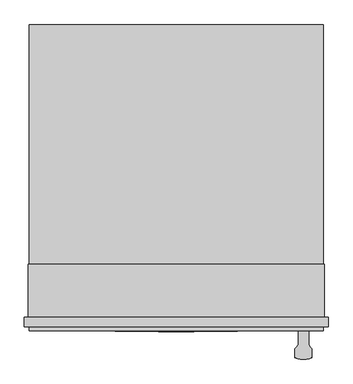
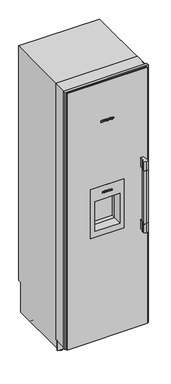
"""IFC4 building model written with IfcOpenShell, lengths in millimetres: proxy geometry, 11503570_USA_F2672SF : 37267211_USA_11503570_F2672SF."""

from ifc_helpers import new_model, si_unit, point, frame, frame_2d, origin, place, context, project, spatial, polyline, circle_curve, ellipse_curve, trimmed, segment, composite_curve, outline, extrude, faceted_brep, source, transform, mapped, element, save
from ifc_brep_helpers import plane_surface, cylinder_surface, revolved_surface, extruded_surface, advanced_brep


def specialty_equipment_fe4ad40c(model_context):
    return source(origin(), model_context, "Body", "SolidModel", [
        extrude(outline(polyline([(-6.5, 75.0), (6.5, 75.0), (6.5, 21.0), (-6.5, 21.0), (-6.5, 75.0)])), frame((0.0, 0.0, 99.0), z_axis=(0.0, 0.0, 1.0), x_axis=(1.0, 0.0, 0.0)), (0.0, 0.0, 1.0), 67.0),
        extrude(outline(polyline([(1295.0, 125.0), (1295.0, -125.0), (908.0, -125.0), (908.0, 125.0), (1295.0, 125.0)]), holes=[polyline([(1190.0, 94.0), (956.0, 94.0), (956.0, -94.0), (1190.0, -94.0), (1190.0, 94.0)])]), frame((0.0, -1.3, 0.0), z_axis=(0.0, 1.0, 0.0), x_axis=(0.0, 0.0, 1.0)), (0.0, 0.0, 1.0), 69.3),
        extrude(outline(polyline([(2036.0, 291.0), (2036.0, -291.0), (265.0, -291.0), (265.0, 291.0), (2036.0, 291.0)]), holes=[polyline([(1295.0, 125.0), (908.0, 125.0), (908.0, -125.0), (1295.0, -125.0), (1295.0, 125.0)])]), frame((0.0, 21.0, 0.0), z_axis=(0.0, 1.0, 0.0), x_axis=(0.0, 0.0, 1.0)), (0.0, 0.0, 1.0), 47.0),
        faceted_brep([(-158.0, 68.0, 863.0), (-158.0, 68.0, 1335.0), (-158.0, 260.0, 1335.0), (-158.0, 260.0, 987.0), (-158.0, 161.0, 863.0), (158.0, 68.0, 863.0), (158.0, 161.0, 863.0), (158.0, 260.0, 987.0), (158.0, 260.0, 1335.0), (158.0, 68.0, 1335.0), (94.0, 68.0, 1190.0), (94.0, 68.0, 956.0), (-94.0, 68.0, 956.0), (-94.0, 68.0, 1190.0), (94.0, 100.0, 1190.0), (-94.0, 100.0, 1190.0), (-94.0, 100.0, 956.0), (94.0, 100.0, 956.0)], [[[0, 1, 2, 3, 4]], [[5, 6, 7, 8, 9]], [[0, 4, 6, 5]], [[4, 3, 7, 6]], [[3, 2, 8, 7]], [[2, 1, 9, 8]], [[1, 0, 5, 9], [10, 11, 12, 13]], [[14, 15, 16, 17]], [[14, 17, 11, 10]], [[17, 16, 12, 11]], [[16, 15, 13, 12]], [[15, 14, 10, 13]]]),
        extrude(outline(polyline([(2113.0, 301.5), (2113.0, -301.5), (90.0, -301.5), (90.0, 301.5), (2113.0, 301.5)]), holes=[polyline([(1295.0, 125.0), (908.0, 125.0), (908.0, -125.0), (1295.0, -125.0), (1295.0, 125.0)])]), frame((0.0, 0.0, 0.0), z_axis=(0.0, 1.0, 0.0), x_axis=(0.0, 0.0, 1.0)), (0.0, 0.0, 1.0), 21.0),
        extrude(outline(polyline([(-137.5, 50.0), (137.5, 50.0), (137.5, 21.0), (-137.5, 21.0), (-137.5, 50.0)])), frame((0.0, 0.0, 2036.0), z_axis=(0.0, 0.0, 1.0), x_axis=(1.0, 0.0, 0.0)), (0.0, 0.0, 1.0), 56.0),
        extrude(outline(composite_curve([segment(trimmed(circle_curve(frame_2d((234.4285714, -24.4390599)), 15.5714286), [point((243.0, -37.4390599))], [point((250.0, -24.4390599))], True, "CARTESIAN"), True, "CONTINUOUS"), segment(polyline([(250.0, -24.4390599), (250.0, 0.0), (271.0, 0.0), (271.0, -24.4390599)]), True, "CONTINUOUS"), segment(trimmed(circle_curve(frame_2d((286.5714286, -24.4390599)), 15.5714286), [point((271.0, -24.4390599))], [point((278.0, -37.4390599))], True, "CARTESIAN"), True, "CONTINUOUS"), segment(polyline([(278.0, -37.4390599), (278.0, -55.0)]), True, "CONTINUOUS"), segment(trimmed(circle_curve(frame_2d((260.5, -18.71875)), 40.28125), [point((278.0, -55.0))], [point((260.5, -59.0))], False, "CARTESIAN"), True, "CONTINUOUS"), segment(trimmed(circle_curve(frame_2d((260.5, -18.71875)), 40.28125), [point((260.5, -59.0))], [point((243.0, -55.0))], False, "CARTESIAN"), True, "CONTINUOUS"), segment(polyline([(243.0, -55.0), (243.0, -37.4390599)]), True, "CONTINUOUS")], self_intersect=False)), frame((0.0, 0.0, 858.0), z_axis=(0.0, 0.0, 1.0), x_axis=(1.0, 0.0, 0.0)), (0.0, 0.0, 1.0), 70.0),
        extrude(outline(composite_curve([segment(trimmed(circle_curve(frame_2d((234.4285714, -24.4390599)), 15.5714286), [point((243.0, -37.4390599))], [point((250.0, -24.4390599))], True, "CARTESIAN"), True, "CONTINUOUS"), segment(polyline([(250.0, -24.4390599), (250.0, 0.0), (271.0, 0.0), (271.0, -24.4390599)]), True, "CONTINUOUS"), segment(trimmed(circle_curve(frame_2d((286.5714286, -24.4390599)), 15.5714286), [point((271.0, -24.4390599))], [point((278.0, -37.4390599))], True, "CARTESIAN"), True, "CONTINUOUS"), segment(polyline([(278.0, -37.4390599), (278.0, -55.0)]), True, "CONTINUOUS"), segment(trimmed(circle_curve(frame_2d((260.5, -18.71875)), 40.28125), [point((278.0, -55.0))], [point((260.5, -59.0))], False, "CARTESIAN"), True, "CONTINUOUS"), segment(trimmed(circle_curve(frame_2d((260.5, -18.71875)), 40.28125), [point((260.5, -59.0))], [point((243.0, -55.0))], False, "CARTESIAN"), True, "CONTINUOUS"), segment(polyline([(243.0, -55.0), (243.0, -37.4390599)]), True, "CONTINUOUS")], self_intersect=False)), frame((0.0, 0.0, 1348.0), z_axis=(0.0, 0.0, 1.0), x_axis=(1.0, 0.0, 0.0)), (0.0, 0.0, 1.0), 70.0),
        extrude(outline(composite_curve([segment(trimmed(circle_curve(frame_2d((234.4285714, -24.4390599)), 15.5714286), [point((243.0, -37.4390599))], [point((244.8599688, -36.0))], True, "CARTESIAN"), True, "CONTINUOUS"), segment(polyline([(244.8599688, -36.0), (276.1400312, -36.0)]), True, "CONTINUOUS"), segment(trimmed(circle_curve(frame_2d((286.5714286, -24.4390599)), 15.5714286), [point((276.1400312, -36.0))], [point((278.0, -37.4390599))], True, "CARTESIAN"), True, "CONTINUOUS"), segment(polyline([(278.0, -37.4390599), (278.0, -55.0)]), True, "CONTINUOUS"), segment(trimmed(circle_curve(frame_2d((260.5, -18.71875)), 40.28125), [point((278.0, -55.0))], [point((260.5, -59.0))], False, "CARTESIAN"), True, "CONTINUOUS"), segment(trimmed(circle_curve(frame_2d((260.5, -18.71875)), 40.28125), [point((260.5, -59.0))], [point((243.0, -55.0))], False, "CARTESIAN"), True, "CONTINUOUS"), segment(polyline([(243.0, -55.0), (243.0, -37.4390599)]), True, "CONTINUOUS")], self_intersect=False)), frame((0.0, 0.0, 928.0), z_axis=(0.0, 0.0, 1.0), x_axis=(1.0, 0.0, 0.0)), (0.0, 0.0, 1.0), 420.0),
        advanced_brep(
        [(28.472, -2.3, 1241.344), (28.472, -2.3, 1242.556), (36.5, -2.3, 1242.556), (22.532, -2.3, 1242.556), (25.832, -2.3, 1238.5), (36.296, -2.3, 1241.344), (32.672, -2.3, 1241.344), (29.816, -2.3, 1240.0), (28.472, -2.3, 1244.092), (28.472, -2.3, 1245.4), (30.524, -2.3, 1245.4), (30.524, -2.3, 1244.092), (28.472, -1.3, 1241.344), (29.816, -1.3, 1240.0), (32.672, -1.3, 1241.344), (36.296, -1.3, 1241.344), (25.832, -1.3, 1238.5), (22.532, -1.3, 1242.556), (36.5, -1.3, 1242.556), (28.472, -1.3, 1242.556), (28.472, -1.3, 1244.092), (30.524, -1.3, 1244.092), (30.524, -1.3, 1245.4), (28.472, -1.3, 1245.4)],
        [
            (0, 1),
            (1, 2),
            (2, 3, ellipse_curve(frame((29.516, -2.3, 1242.556), z_axis=(0.0, -1.0, 0.0), x_axis=(-1.0, 0.0, 0.0)), 6.984, 5.772)),
            (3, 4, circle_curve(frame((27.1760655, -2.3, 1242.964), z_axis=(0.0, -1.0, 0.0), x_axis=(0.0, 0.0, -1.0)), 4.6619532)),
            (4, 5, circle_curve(frame((29.3761904, -2.3, 1246.132), z_axis=(0.0, -1.0, 0.0), x_axis=(0.0, 0.0, -1.0)), 8.4147911)),
            (5, 6),
            (6, 7, circle_curve(frame((30.4025882, -2.3, 1242.46), z_axis=(0.0, 1.0, 0.0), x_axis=(0.0, 0.0, -1.0)), 2.5289693)),
            (7, 0, circle_curve(frame((29.816, -2.3, 1241.344), z_axis=(0.0, 1.0, 0.0), x_axis=(0.0, 0.0, -1.0)), 1.344)),
            (8, 9),
            (9, 10, circle_curve(frame((29.498, -2.3, 1245.4), z_axis=(0.0, 1.0, 0.0), x_axis=(0.0, 0.0, -1.0)), 1.026)),
            (10, 11),
            (11, 8),
            (12, 13, circle_curve(frame((29.816, -1.3, 1241.344), z_axis=(0.0, -1.0, 0.0), x_axis=(0.0, 0.0, -1.0)), 1.344)),
            (13, 14, circle_curve(frame((30.4025882, -1.3, 1242.46), z_axis=(0.0, -1.0, 0.0), x_axis=(0.0, 0.0, -1.0)), 2.5289693)),
            (14, 15),
            (15, 16, circle_curve(frame((29.3761904, -1.3, 1246.132), z_axis=(0.0, 1.0, 0.0), x_axis=(0.0, 0.0, -1.0)), 8.4147911)),
            (16, 17, circle_curve(frame((27.1760655, -1.3, 1242.964), z_axis=(0.0, 1.0, 0.0), x_axis=(0.0, 0.0, -1.0)), 4.6619532)),
            (17, 18, ellipse_curve(frame((29.516, -1.3, 1242.556), z_axis=(0.0, 1.0, 0.0), x_axis=(-1.0, 0.0, 0.0)), 6.984, 5.772)),
            (18, 19),
            (19, 12),
            (20, 21),
            (21, 22),
            (22, 23, circle_curve(frame((29.498, -1.3, 1245.4), z_axis=(0.0, -1.0, 0.0), x_axis=(0.0, 0.0, -1.0)), 1.026)),
            (23, 20),
            (0, 12),
            (19, 1),
            (18, 2),
            (5, 15),
            (14, 6),
            (17, 3),
            (13, 7),
            (16, 4),
            (8, 20),
            (23, 9),
            (22, 10),
            (21, 11),
        ],
        [
            plane_surface(frame((28.472, -2.3, 1242.556), z_axis=(0.0, -1.0, 0.0), x_axis=(0.0, 0.0, 1.0))),
            plane_surface(frame((28.472, -1.3, 1242.556), z_axis=(0.0, 1.0, 0.0), x_axis=(0.0, 0.0, -1.0))),
            plane_surface(frame((28.472, -2.3, 1241.344), z_axis=(1.0, 0.0, 0.0), x_axis=(0.0, 1.0, 0.0))),
            plane_surface(frame((28.472, -2.3, 1242.556), z_axis=(0.0, 0.0, -1.0), x_axis=(0.0, 1.0, 0.0))),
            plane_surface(frame((36.296, -2.3, 1241.344), z_axis=(0.0, 0.0, 1.0), x_axis=(0.0, 1.0, 0.0))),
            extruded_surface(trimmed(ellipse_curve(frame((29.516, -0.3, 1242.556), z_axis=(0.0, -1.0, 0.0), x_axis=(-1.0, 0.0, 0.0)), 6.984, 5.772), [point((36.5, -0.3, 1242.556))], [point((22.532, -0.3, 1242.556))], True, "CARTESIAN"), (0.0, -1.0, 0.0), 1.0),
            revolved_surface(polyline([(30.4025882, -1.3, 1239.9310307), (30.4025882, -2.3, 1239.9310307)]), (30.4025882, -1.3, 1242.46), (0.0, 1.0, 0.0)),
            revolved_surface(polyline([(29.816, -1.3, 1240.0), (29.816, -2.3, 1240.0)]), (29.816, -1.3, 1241.344), (0.0, 1.0, 0.0)),
            cylinder_surface(frame((27.1760655, -1.3, 1242.964), z_axis=(0.0, -1.0, 0.0), x_axis=(0.0, 0.0, -1.0)), 4.6619532),
            cylinder_surface(frame((29.3761904, -1.3, 1246.132), z_axis=(0.0, -1.0, 0.0), x_axis=(0.0, 0.0, -1.0)), 8.4147911),
            plane_surface(frame((28.472, -2.3, 1244.092), z_axis=(1.0, 0.0, 0.0), x_axis=(0.0, 1.0, 0.0))),
            revolved_surface(polyline([(29.498, -1.3, 1244.374), (29.498, -2.3, 1244.374)]), (29.498, -1.3, 1245.4), (0.0, 1.0, 0.0)),
            plane_surface(frame((30.524, -2.3, 1245.4), z_axis=(-1.0, 0.0, 0.0), x_axis=(0.0, 1.0, 0.0))),
            plane_surface(frame((30.524, -2.3, 1244.092), z_axis=(0.0, 0.0, 1.0), x_axis=(0.0, 1.0, 0.0))),
        ],
        [
            (0, [[1, 2, 3, 4, 5, 6, 7, 8], [9, 10, 11, 12]]),
            (1, [[13, 14, 15, 16, 17, 18, 19, 20], [21, 22, 23, 24]]),
            (2, [[-1, 25, -20, 26]]),
            (3, [[-2, -26, -19, 27]]),
            (4, [[-6, 28, -15, 29]]),
            (5, [[-3, -27, -18, 30]]),
            (6, [[-7, -29, -14, 31]]),
            (7, [[-8, -31, -13, -25]]),
            (8, [[-4, -30, -17, 32]]),
            (9, [[-5, -32, -16, -28]]),
            (10, [[-9, 33, -24, 34]]),
            (11, [[-10, -34, -23, 35]]),
            (12, [[-11, -35, -22, 36]]),
            (13, [[-12, -36, -21, -33]]),
        ],
    ),
        advanced_brep(
        [(3.428, -2.3, 1241.344), (3.428, -2.3, 1242.556), (11.456, -2.3, 1242.556), (-2.512, -2.3, 1242.556), (0.788, -2.3, 1238.5), (11.252, -2.3, 1241.344), (7.628, -2.3, 1241.344), (4.772, -2.3, 1240.0), (3.428, -2.3, 1244.092), (3.428, -2.3, 1245.4), (5.48, -2.3, 1245.4), (5.48, -2.3, 1244.092), (3.428, -1.3, 1241.344), (4.772, -1.3, 1240.0), (7.628, -1.3, 1241.344), (11.252, -1.3, 1241.344), (0.788, -1.3, 1238.5), (-2.512, -1.3, 1242.556), (11.456, -1.3, 1242.556), (3.428, -1.3, 1242.556), (3.428, -1.3, 1244.092), (5.48, -1.3, 1244.092), (5.48, -1.3, 1245.4), (3.428, -1.3, 1245.4)],
        [
            (0, 1),
            (1, 2),
            (2, 3, ellipse_curve(frame((4.472, -2.3, 1242.556), z_axis=(0.0, -1.0, 0.0), x_axis=(-1.0, 0.0, 0.0)), 6.984, 5.772)),
            (3, 4, circle_curve(frame((2.1320655, -2.3, 1242.964), z_axis=(0.0, -1.0, 0.0), x_axis=(0.0, 0.0, -1.0)), 4.6619532)),
            (4, 5, circle_curve(frame((4.3321904, -2.3, 1246.132), z_axis=(0.0, -1.0, 0.0), x_axis=(0.0, 0.0, -1.0)), 8.4147911)),
            (5, 6),
            (6, 7, circle_curve(frame((5.3585882, -2.3, 1242.46), z_axis=(0.0, 1.0, 0.0), x_axis=(0.0, 0.0, -1.0)), 2.5289693)),
            (7, 0, circle_curve(frame((4.772, -2.3, 1241.344), z_axis=(0.0, 1.0, 0.0), x_axis=(0.0, 0.0, -1.0)), 1.344)),
            (8, 9),
            (9, 10, circle_curve(frame((4.454, -2.3, 1245.4), z_axis=(0.0, 1.0, 0.0), x_axis=(0.0, 0.0, -1.0)), 1.026)),
            (10, 11),
            (11, 8),
            (12, 13, circle_curve(frame((4.772, -1.3, 1241.344), z_axis=(0.0, -1.0, 0.0), x_axis=(0.0, 0.0, -1.0)), 1.344)),
            (13, 14, circle_curve(frame((5.3585882, -1.3, 1242.46), z_axis=(0.0, -1.0, 0.0), x_axis=(0.0, 0.0, -1.0)), 2.5289693)),
            (14, 15),
            (15, 16, circle_curve(frame((4.3321904, -1.3, 1246.132), z_axis=(0.0, 1.0, 0.0), x_axis=(0.0, 0.0, -1.0)), 8.4147911)),
            (16, 17, circle_curve(frame((2.1320655, -1.3, 1242.964), z_axis=(0.0, 1.0, 0.0), x_axis=(0.0, 0.0, -1.0)), 4.6619532)),
            (17, 18, ellipse_curve(frame((4.472, -1.3, 1242.556), z_axis=(0.0, 1.0, 0.0), x_axis=(-1.0, 0.0, 0.0)), 6.984, 5.772)),
            (18, 19),
            (19, 12),
            (20, 21),
            (21, 22),
            (22, 23, circle_curve(frame((4.454, -1.3, 1245.4), z_axis=(0.0, -1.0, 0.0), x_axis=(0.0, 0.0, -1.0)), 1.026)),
            (23, 20),
            (0, 12),
            (19, 1),
            (18, 2),
            (5, 15),
            (14, 6),
            (17, 3),
            (13, 7),
            (16, 4),
            (8, 20),
            (23, 9),
            (22, 10),
            (21, 11),
        ],
        [
            plane_surface(frame((3.428, -2.3, 1242.556), z_axis=(0.0, -1.0, 0.0), x_axis=(0.0, 0.0, 1.0))),
            plane_surface(frame((3.428, -1.3, 1242.556), z_axis=(0.0, 1.0, 0.0), x_axis=(0.0, 0.0, -1.0))),
            plane_surface(frame((3.428, -2.3, 1241.344), z_axis=(1.0, 0.0, 0.0), x_axis=(0.0, 1.0, 0.0))),
            plane_surface(frame((3.428, -2.3, 1242.556), z_axis=(0.0, 0.0, -1.0), x_axis=(0.0, 1.0, 0.0))),
            plane_surface(frame((11.252, -2.3, 1241.344), z_axis=(0.0, 0.0, 1.0), x_axis=(0.0, 1.0, 0.0))),
            extruded_surface(trimmed(ellipse_curve(frame((4.472, -0.3, 1242.556), z_axis=(0.0, -1.0, 0.0), x_axis=(-1.0, 0.0, 0.0)), 6.984, 5.772), [point((11.456, -0.3, 1242.556))], [point((-2.512, -0.3, 1242.556))], True, "CARTESIAN"), (0.0, -1.0, 0.0), 1.0),
            revolved_surface(polyline([(5.3585882, -1.3, 1239.9310307), (5.3585882, -2.3, 1239.9310307)]), (5.3585882, -1.3, 1242.46), (0.0, 1.0, 0.0)),
            revolved_surface(polyline([(4.772, -1.3, 1240.0), (4.772, -2.3, 1240.0)]), (4.772, -1.3, 1241.344), (0.0, 1.0, 0.0)),
            cylinder_surface(frame((2.1320655, -1.3, 1242.964), z_axis=(0.0, -1.0, 0.0), x_axis=(0.0, 0.0, -1.0)), 4.6619532),
            cylinder_surface(frame((4.3321904, -1.3, 1246.132), z_axis=(0.0, -1.0, 0.0), x_axis=(0.0, 0.0, -1.0)), 8.4147911),
            plane_surface(frame((3.428, -2.3, 1244.092), z_axis=(1.0, 0.0, 0.0), x_axis=(0.0, 1.0, 0.0))),
            revolved_surface(polyline([(4.454, -1.3, 1244.374), (4.454, -2.3, 1244.374)]), (4.454, -1.3, 1245.4), (0.0, 1.0, 0.0)),
            plane_surface(frame((5.48, -2.3, 1245.4), z_axis=(-1.0, 0.0, 0.0), x_axis=(0.0, 1.0, 0.0))),
            plane_surface(frame((5.48, -2.3, 1244.092), z_axis=(0.0, 0.0, 1.0), x_axis=(0.0, 1.0, 0.0))),
        ],
        [
            (0, [[1, 2, 3, 4, 5, 6, 7, 8], [9, 10, 11, 12]]),
            (1, [[13, 14, 15, 16, 17, 18, 19, 20], [21, 22, 23, 24]]),
            (2, [[-1, 25, -20, 26]]),
            (3, [[-2, -26, -19, 27]]),
            (4, [[-6, 28, -15, 29]]),
            (5, [[-3, -27, -18, 30]]),
            (6, [[-7, -29, -14, 31]]),
            (7, [[-8, -31, -13, -25]]),
            (8, [[-4, -30, -17, 32]]),
            (9, [[-5, -32, -16, -28]]),
            (10, [[-9, 33, -24, 34]]),
            (11, [[-10, -34, -23, 35]]),
            (12, [[-11, -35, -22, 36]]),
            (13, [[-12, -36, -21, -33]]),
        ],
    ),
        extrude(outline(polyline([(1249.792, -9.688), (1247.848, -8.776), (1249.744, -4.708), (1251.688, -5.608), (1249.792, -9.688)])), frame((0.0, -2.3, 0.0), z_axis=(0.0, 1.0, 0.0), x_axis=(0.0, 0.0, 1.0)), (0.0, 0.0, 1.0), 1.0),
        extrude(outline(polyline([(1247.584, -12.652), (1245.436, -12.652), (1245.436, -11.224), (1240.516, -11.224), (1240.516, -12.652), (1238.5, -12.652), (1238.5, -3.184), (1240.516, -3.184), (1240.516, -4.576), (1247.584, -4.576), (1247.584, -12.652)])), frame((0.0, -2.3, 0.0), z_axis=(0.0, 1.0, 0.0), x_axis=(0.0, 0.0, 1.0)), (0.0, 0.0, 1.0), 1.0),
        extrude(outline(polyline([(1248.544, 12.128), (1248.544, 13.568), (1240.516, 13.568), (1240.516, 12.128), (1238.5, 12.128), (1238.5, 21.86), (1240.516, 21.86), (1240.516, 20.384), (1250.5, 20.384), (1250.5, 12.128), (1248.544, 12.128)])), frame((0.0, -2.3, 0.0), z_axis=(0.0, 1.0, 0.0), x_axis=(0.0, 0.0, 1.0)), (0.0, 0.0, 1.0), 1.0),
        extrude(outline(polyline([(1248.544, -36.568), (1248.544, -35.116), (1240.516, -35.116), (1240.516, -36.568), (1238.5, -36.568), (1238.5, -31.288), (1240.516, -31.288), (1240.516, -32.728), (1245.5951247, -32.728), (1238.5, -27.364), (1245.8152223, -21.976), (1240.516, -21.976), (1240.516, -23.452), (1238.5, -23.452), (1238.5, -13.876), (1240.516, -13.876), (1240.516, -15.4), (1248.544, -15.4), (1248.544, -13.876), (1250.5, -13.876), (1250.5, -21.184), (1246.0, -24.688), (1250.5, -28.204), (1250.5, -36.568), (1248.544, -36.568)])), frame((0.0, -2.3, 0.0), z_axis=(0.0, 1.0, 0.0), x_axis=(0.0, 0.0, 1.0)), (0.0, 0.0, 1.0), 1.0),
        advanced_brep(
        [(38.22, -1.0, 1801.792), (38.22, -1.0, 1803.408), (48.924, -1.0, 1803.408), (30.3, -1.0, 1803.408), (34.7, -1.0, 1798.0), (48.652, -1.0, 1801.792), (43.82, -1.0, 1801.792), (40.012, -1.0, 1800.0), (38.22, -1.0, 1805.456), (38.22, -1.0, 1807.2), (40.956, -1.0, 1807.2), (40.956, -1.0, 1805.456), (38.22, 0.0, 1801.792), (40.012, 0.0, 1800.0), (43.82, 0.0, 1801.792), (48.652, 0.0, 1801.792), (34.7, 0.0, 1798.0), (30.3, 0.0, 1803.408), (48.924, 0.0, 1803.408), (38.22, 0.0, 1803.408), (38.22, 0.0, 1805.456), (40.956, 0.0, 1805.456), (40.956, 0.0, 1807.2), (38.22, 0.0, 1807.2)],
        [
            (0, 1),
            (1, 2),
            (2, 3, ellipse_curve(frame((39.612, -1.0, 1803.408), z_axis=(0.0, -1.0, 0.0), x_axis=(-1.0, 0.0, 0.0)), 9.312, 7.696)),
            (3, 4, circle_curve(frame((36.4920873, -1.0, 1803.952), z_axis=(0.0, -1.0, 0.0), x_axis=(0.0, 0.0, -1.0)), 6.2159376)),
            (4, 5, circle_curve(frame((39.4255872, -1.0, 1808.176), z_axis=(0.0, -1.0, 0.0), x_axis=(0.0, 0.0, -1.0)), 11.2197215)),
            (5, 6),
            (6, 7, circle_curve(frame((40.7941176, -1.0, 1803.28), z_axis=(0.0, 1.0, 0.0), x_axis=(0.0, 0.0, -1.0)), 3.3719591)),
            (7, 0, circle_curve(frame((40.012, -1.0, 1801.792), z_axis=(0.0, 1.0, 0.0), x_axis=(0.0, 0.0, -1.0)), 1.792)),
            (8, 9),
            (9, 10, circle_curve(frame((39.588, -1.0, 1807.2), z_axis=(0.0, 1.0, 0.0), x_axis=(0.0, 0.0, -1.0)), 1.368)),
            (10, 11),
            (11, 8),
            (12, 13, circle_curve(frame((40.012, 0.0, 1801.792), z_axis=(0.0, -1.0, 0.0), x_axis=(0.0, 0.0, -1.0)), 1.792)),
            (13, 14, circle_curve(frame((40.7941176, 0.0, 1803.28), z_axis=(0.0, -1.0, 0.0), x_axis=(0.0, 0.0, -1.0)), 3.3719591)),
            (14, 15),
            (15, 16, circle_curve(frame((39.4255872, 0.0, 1808.176), z_axis=(0.0, 1.0, 0.0), x_axis=(0.0, 0.0, -1.0)), 11.2197215)),
            (16, 17, circle_curve(frame((36.4920873, 0.0, 1803.952), z_axis=(0.0, 1.0, 0.0), x_axis=(0.0, 0.0, -1.0)), 6.2159376)),
            (17, 18, ellipse_curve(frame((39.612, 0.0, 1803.408), z_axis=(0.0, 1.0, 0.0), x_axis=(-1.0, 0.0, 0.0)), 9.312, 7.696)),
            (18, 19),
            (19, 12),
            (20, 21),
            (21, 22),
            (22, 23, circle_curve(frame((39.588, 0.0, 1807.2), z_axis=(0.0, -1.0, 0.0), x_axis=(0.0, 0.0, -1.0)), 1.368)),
            (23, 20),
            (0, 12),
            (19, 1),
            (18, 2),
            (5, 15),
            (14, 6),
            (17, 3),
            (13, 7),
            (16, 4),
            (8, 20),
            (23, 9),
            (22, 10),
            (21, 11),
        ],
        [
            plane_surface(frame((38.22, -1.0, 1803.408), z_axis=(0.0, -1.0, 0.0), x_axis=(0.0, 0.0, 1.0))),
            plane_surface(frame((38.22, 0.0, 1803.408), z_axis=(0.0, 1.0, 0.0), x_axis=(0.0, 0.0, -1.0))),
            plane_surface(frame((38.22, -1.0, 1801.792), z_axis=(1.0, 0.0, 0.0), x_axis=(0.0, 1.0, 0.0))),
            plane_surface(frame((38.22, -1.0, 1803.408), z_axis=(0.0, 0.0, -1.0), x_axis=(0.0, 1.0, 0.0))),
            plane_surface(frame((48.652, -1.0, 1801.792), z_axis=(0.0, 0.0, 1.0), x_axis=(0.0, 1.0, 0.0))),
            extruded_surface(trimmed(ellipse_curve(frame((39.612, 1.0, 1803.408), z_axis=(0.0, -1.0, 0.0), x_axis=(-1.0, 0.0, 0.0)), 9.312, 7.696), [point((48.924, 1.0, 1803.408))], [point((30.3, 1.0, 1803.408))], True, "CARTESIAN"), (0.0, -1.0, 0.0), 1.0),
            revolved_surface(polyline([(40.7941176, 0.0, 1799.9080409), (40.7941176, -1.0, 1799.9080409)]), (40.7941176, 0.0, 1803.28), (0.0, 1.0, 0.0)),
            revolved_surface(polyline([(40.012, 0.0, 1800.0), (40.012, -1.0, 1800.0)]), (40.012, 0.0, 1801.792), (0.0, 1.0, 0.0)),
            cylinder_surface(frame((36.4920873, 0.0, 1803.952), z_axis=(0.0, -1.0, 0.0), x_axis=(0.0, 0.0, -1.0)), 6.2159376),
            cylinder_surface(frame((39.4255872, 0.0, 1808.176), z_axis=(0.0, -1.0, 0.0), x_axis=(0.0, 0.0, -1.0)), 11.2197215),
            plane_surface(frame((38.22, -1.0, 1805.456), z_axis=(1.0, 0.0, 0.0), x_axis=(0.0, 1.0, 0.0))),
            revolved_surface(polyline([(39.588, 0.0, 1805.832), (39.588, -1.0, 1805.832)]), (39.588, 0.0, 1807.2), (0.0, 1.0, 0.0)),
            plane_surface(frame((40.956, -1.0, 1807.2), z_axis=(-1.0, 0.0, 0.0), x_axis=(0.0, 1.0, 0.0))),
            plane_surface(frame((40.956, -1.0, 1805.456), z_axis=(0.0, 0.0, 1.0), x_axis=(0.0, 1.0, 0.0))),
        ],
        [
            (0, [[1, 2, 3, 4, 5, 6, 7, 8], [9, 10, 11, 12]]),
            (1, [[13, 14, 15, 16, 17, 18, 19, 20], [21, 22, 23, 24]]),
            (2, [[-1, 25, -20, 26]]),
            (3, [[-2, -26, -19, 27]]),
            (4, [[-6, 28, -15, 29]]),
            (5, [[-3, -27, -18, 30]]),
            (6, [[-7, -29, -14, 31]]),
            (7, [[-8, -31, -13, -25]]),
            (8, [[-4, -30, -17, 32]]),
            (9, [[-5, -32, -16, -28]]),
            (10, [[-9, 33, -24, 34]]),
            (11, [[-10, -34, -23, 35]]),
            (12, [[-11, -35, -22, 36]]),
            (13, [[-12, -36, -21, -33]]),
        ],
    ),
        advanced_brep(
        [(4.828, -1.0, 1801.792), (4.828, -1.0, 1803.408), (15.532, -1.0, 1803.408), (-3.092, -1.0, 1803.408), (1.308, -1.0, 1798.0), (15.26, -1.0, 1801.792), (10.428, -1.0, 1801.792), (6.62, -1.0, 1800.0), (4.828, -1.0, 1805.456), (4.828, -1.0, 1807.2), (7.564, -1.0, 1807.2), (7.564, -1.0, 1805.456), (4.828, 0.0, 1801.792), (6.62, 0.0, 1800.0), (10.428, 0.0, 1801.792), (15.26, 0.0, 1801.792), (1.308, 0.0, 1798.0), (-3.092, 0.0, 1803.408), (15.532, 0.0, 1803.408), (4.828, 0.0, 1803.408), (4.828, 0.0, 1805.456), (7.564, 0.0, 1805.456), (7.564, 0.0, 1807.2), (4.828, 0.0, 1807.2)],
        [
            (0, 1),
            (1, 2),
            (2, 3, ellipse_curve(frame((6.22, -1.0, 1803.408), z_axis=(0.0, -1.0, 0.0), x_axis=(-1.0, 0.0, 0.0)), 9.312, 7.696)),
            (3, 4, circle_curve(frame((3.1000873, -1.0, 1803.952), z_axis=(0.0, -1.0, 0.0), x_axis=(0.0, 0.0, -1.0)), 6.2159376)),
            (4, 5, circle_curve(frame((6.0335872, -1.0, 1808.176), z_axis=(0.0, -1.0, 0.0), x_axis=(0.0, 0.0, -1.0)), 11.2197215)),
            (5, 6),
            (6, 7, circle_curve(frame((7.4021176, -1.0, 1803.28), z_axis=(0.0, 1.0, 0.0), x_axis=(0.0, 0.0, -1.0)), 3.3719591)),
            (7, 0, circle_curve(frame((6.62, -1.0, 1801.792), z_axis=(0.0, 1.0, 0.0), x_axis=(0.0, 0.0, -1.0)), 1.792)),
            (8, 9),
            (9, 10, circle_curve(frame((6.196, -1.0, 1807.2), z_axis=(0.0, 1.0, 0.0), x_axis=(0.0, 0.0, -1.0)), 1.368)),
            (10, 11),
            (11, 8),
            (12, 13, circle_curve(frame((6.62, 0.0, 1801.792), z_axis=(0.0, -1.0, 0.0), x_axis=(0.0, 0.0, -1.0)), 1.792)),
            (13, 14, circle_curve(frame((7.4021176, 0.0, 1803.28), z_axis=(0.0, -1.0, 0.0), x_axis=(0.0, 0.0, -1.0)), 3.3719591)),
            (14, 15),
            (15, 16, circle_curve(frame((6.0335872, 0.0, 1808.176), z_axis=(0.0, 1.0, 0.0), x_axis=(0.0, 0.0, -1.0)), 11.2197215)),
            (16, 17, circle_curve(frame((3.1000873, 0.0, 1803.952), z_axis=(0.0, 1.0, 0.0), x_axis=(0.0, 0.0, -1.0)), 6.2159376)),
            (17, 18, ellipse_curve(frame((6.22, 0.0, 1803.408), z_axis=(0.0, 1.0, 0.0), x_axis=(-1.0, 0.0, 0.0)), 9.312, 7.696)),
            (18, 19),
            (19, 12),
            (20, 21),
            (21, 22),
            (22, 23, circle_curve(frame((6.196, 0.0, 1807.2), z_axis=(0.0, -1.0, 0.0), x_axis=(0.0, 0.0, -1.0)), 1.368)),
            (23, 20),
            (0, 12),
            (19, 1),
            (18, 2),
            (5, 15),
            (14, 6),
            (17, 3),
            (13, 7),
            (16, 4),
            (8, 20),
            (23, 9),
            (22, 10),
            (21, 11),
        ],
        [
            plane_surface(frame((4.828, -1.0, 1803.408), z_axis=(0.0, -1.0, 0.0), x_axis=(0.0, 0.0, 1.0))),
            plane_surface(frame((4.828, 0.0, 1803.408), z_axis=(0.0, 1.0, 0.0), x_axis=(0.0, 0.0, -1.0))),
            plane_surface(frame((4.828, -1.0, 1801.792), z_axis=(1.0, 0.0, 0.0), x_axis=(0.0, 1.0, 0.0))),
            plane_surface(frame((4.828, -1.0, 1803.408), z_axis=(0.0, 0.0, -1.0), x_axis=(0.0, 1.0, 0.0))),
            plane_surface(frame((15.26, -1.0, 1801.792), z_axis=(0.0, 0.0, 1.0), x_axis=(0.0, 1.0, 0.0))),
            extruded_surface(trimmed(ellipse_curve(frame((6.22, 1.0, 1803.408), z_axis=(0.0, -1.0, 0.0), x_axis=(-1.0, 0.0, 0.0)), 9.312, 7.696), [point((15.532, 1.0, 1803.408))], [point((-3.092, 1.0, 1803.408))], True, "CARTESIAN"), (0.0, -1.0, 0.0), 1.0),
            revolved_surface(polyline([(7.4021176, 0.0, 1799.9080409), (7.4021176, -1.0, 1799.9080409)]), (7.4021176, 0.0, 1803.28), (0.0, 1.0, 0.0)),
            revolved_surface(polyline([(6.62, 0.0, 1800.0), (6.62, -1.0, 1800.0)]), (6.62, 0.0, 1801.792), (0.0, 1.0, 0.0)),
            cylinder_surface(frame((3.1000873, 0.0, 1803.952), z_axis=(0.0, -1.0, 0.0), x_axis=(0.0, 0.0, -1.0)), 6.2159376),
            cylinder_surface(frame((6.0335872, 0.0, 1808.176), z_axis=(0.0, -1.0, 0.0), x_axis=(0.0, 0.0, -1.0)), 11.2197215),
            plane_surface(frame((4.828, -1.0, 1805.456), z_axis=(1.0, 0.0, 0.0), x_axis=(0.0, 1.0, 0.0))),
            revolved_surface(polyline([(6.196, 0.0, 1805.832), (6.196, -1.0, 1805.832)]), (6.196, 0.0, 1807.2), (0.0, 1.0, 0.0)),
            plane_surface(frame((7.564, -1.0, 1807.2), z_axis=(-1.0, 0.0, 0.0), x_axis=(0.0, 1.0, 0.0))),
            plane_surface(frame((7.564, -1.0, 1805.456), z_axis=(0.0, 0.0, 1.0), x_axis=(0.0, 1.0, 0.0))),
        ],
        [
            (0, [[1, 2, 3, 4, 5, 6, 7, 8], [9, 10, 11, 12]]),
            (1, [[13, 14, 15, 16, 17, 18, 19, 20], [21, 22, 23, 24]]),
            (2, [[-1, 25, -20, 26]]),
            (3, [[-2, -26, -19, 27]]),
            (4, [[-6, 28, -15, 29]]),
            (5, [[-3, -27, -18, 30]]),
            (6, [[-7, -29, -14, 31]]),
            (7, [[-8, -31, -13, -25]]),
            (8, [[-4, -30, -17, 32]]),
            (9, [[-5, -32, -16, -28]]),
            (10, [[-9, 33, -24, 34]]),
            (11, [[-10, -34, -23, 35]]),
            (12, [[-11, -35, -22, 36]]),
            (13, [[-12, -36, -21, -33]]),
        ],
    ),
        extrude(outline(polyline([(1813.056, -12.66), (1810.464, -11.444), (1812.992, -6.02), (1815.584, -7.22), (1813.056, -12.66)])), frame((0.0, -1.0, 0.0), z_axis=(0.0, 1.0, 0.0), x_axis=(0.0, 0.0, 1.0)), (0.0, 0.0, 1.0), 1.0),
        extrude(outline(polyline([(1810.112, -16.612), (1807.248, -16.612), (1807.248, -14.708), (1800.688, -14.708), (1800.688, -16.612), (1798.0, -16.612), (1798.0, -3.988), (1800.688, -3.988), (1800.688, -5.844), (1810.112, -5.844), (1810.112, -16.612)])), frame((0.0, -1.0, 0.0), z_axis=(0.0, 1.0, 0.0), x_axis=(0.0, 0.0, 1.0)), (0.0, 0.0, 1.0), 1.0),
        extrude(outline(polyline([(1811.392, 16.428), (1811.392, 18.348), (1800.688, 18.348), (1800.688, 16.428), (1798.0, 16.428), (1798.0, 29.404), (1800.688, 29.404), (1800.688, 27.436), (1814.0, 27.436), (1814.0, 16.428), (1811.392, 16.428)])), frame((0.0, -1.0, 0.0), z_axis=(0.0, 1.0, 0.0), x_axis=(0.0, 0.0, 1.0)), (0.0, 0.0, 1.0), 1.0),
        extrude(outline(polyline([(1811.392, -48.5), (1811.392, -46.564), (1800.688, -46.564), (1800.688, -48.5), (1798.0, -48.5), (1798.0, -41.46), (1800.688, -41.46), (1800.688, -43.38), (1807.4431247, -43.38), (1798.0, -36.228), (1807.8152223, -29.044), (1800.688, -29.044), (1800.688, -31.012), (1798.0, -31.012), (1798.0, -18.244), (1800.688, -18.244), (1800.688, -20.276), (1811.392, -20.276), (1811.392, -18.244), (1814.0, -18.244), (1814.0, -27.988), (1808.0, -32.66), (1814.0, -37.348), (1814.0, -48.5), (1811.392, -48.5)])), frame((0.0, -1.0, 0.0), z_axis=(0.0, 1.0, 0.0), x_axis=(0.0, 0.0, 1.0)), (0.0, 0.0, 1.0), 1.0),
        extrude(outline(polyline([(540.0, 1998.0), (540.0, 1799.0), (468.0526316, 1799.0), (443.0, 1867.0), (222.7448904, 1867.0), (178.0, 1939.0), (108.0, 1949.0), (108.0, 1998.0), (540.0, 1998.0)])), frame((-255.5, 0.0, 0.0), z_axis=(1.0, 0.0, 0.0), x_axis=(0.0, 1.0, 0.0)), (0.0, 0.0, 1.0), 511.0),
        extrude(outline(polyline([(217.9886114, 1875.0), (216.809433, 1875.0), (179.6921935, 1934.4), (180.8713719, 1934.4), (217.9886114, 1875.0)])), frame((-69.0, 0.0, 0.0), z_axis=(1.0, 0.0, 0.0), x_axis=(0.0, 1.0, 0.0)), (0.0, 0.0, 1.0), 138.0),
        extrude(outline(polyline([(46.0510837, -84.101717), (37.4134902, -86.1745179), (46.0453554, -88.6868463), (46.0453554, -90.5601414), (37.4089549, -93.0799633), (46.0493903, -95.1581876), (46.0493903, -96.4649805), (36.0005458, -93.7156324), (36.0005458, -92.372208), (44.8261022, -89.6342221), (35.9987467, -87.0620509), (35.9987287, -85.5451466), (46.0510837, -82.800191), (46.0510837, -84.101717)])), frame((0.0, 625.0, 0.0), z_axis=(0.0, 1.0, 0.0), x_axis=(0.0, 0.0, 1.0)), (0.0, 0.0, 1.0), 1.0),
        extrude(outline(polyline([(46.0485238, -75.7401503), (41.1363122, -75.7401503), (46.0468162, -80.884602), (46.0468162, -82.6328316), (41.9156889, -78.3260313), (36.000035, -82.8032231), (36.000035, -81.2795519), (41.0742849, -77.4391666), (39.4525334, -75.7395503), (35.9999292, -75.7395503), (35.9999292, -74.4795491), (46.0485238, -74.4795491), (46.0485238, -75.7401503)])), frame((0.0, 625.0, 0.0), z_axis=(0.0, 1.0, 0.0), x_axis=(0.0, 0.0, 1.0)), (0.0, 0.0, 1.0), 1.0),
        extrude(outline(composite_curve([segment(trimmed(circle_curve(frame_2d((41.0, -85.0)), 7.5), [point((33.5, -85.0))], [point((48.5, -85.0))], False, "CARTESIAN"), True, "CONTINUOUS"), segment(trimmed(circle_curve(frame_2d((41.0, -85.0)), 7.5), [point((48.5, -85.0))], [point((33.5, -85.0))], False, "CARTESIAN"), True, "CONTINUOUS")], self_intersect=False)), frame((0.0, 598.0, 0.0), z_axis=(0.0, 1.0, 0.0), x_axis=(0.0, 0.0, 1.0)), (0.0, 0.0, 1.0), 27.0),
        extrude(outline(polyline([(2095.0, -295.0), (2047.0, -295.0), (2047.0, -261.0), (2036.5, -261.0), (2036.5, -146.0), (2047.0, -146.0), (2047.0, -140.0), (2095.0, -140.0), (2095.0, -295.0)])), frame((0.0, 21.0, 0.0), z_axis=(0.0, 1.0, 0.0), x_axis=(0.0, 0.0, 1.0)), (0.0, 0.0, 1.0), 47.0),
        extrude(outline(polyline([(254.0, -295.0), (206.0, -295.0), (206.0, -140.0), (254.0, -140.0), (254.0, -146.0), (264.0, -146.0), (264.0, -261.0), (254.0, -261.0), (254.0, -295.0)])), frame((0.0, 21.0, 0.0), z_axis=(0.0, 1.0, 0.0), x_axis=(0.0, 0.0, 1.0)), (0.0, 0.0, 1.0), 54.0),
        extrude(outline(polyline([(265.0, -131.5), (205.0, -131.5), (205.0, -295.0), (166.0, -295.0), (166.0, 28.5), (265.0, 28.5), (265.0, -131.5)])), frame((0.0, 21.0, 0.0), z_axis=(0.0, 1.0, 0.0), x_axis=(0.0, 0.0, 1.0)), (0.0, 0.0, 1.0), 54.0),
        extrude(outline(polyline([(99.0373308, -211.2645771), (97.7615342, -211.2645771), (97.7615342, -205.3195541), (94.7968516, -205.3195541), (94.7968516, -210.969579), (93.5246295, -210.969579), (93.5246295, -205.3415693), (90.2570046, -205.3415693), (90.2570046, -211.4619689), (88.9546219, -211.4619689), (88.9546219, -204.0443524), (99.0373308, -204.0443524), (99.0373308, -211.2645771)])), frame((0.0, 625.0, 0.0), z_axis=(0.0, 1.0, 0.0), x_axis=(0.0, 0.0, 1.0)), (0.0, 0.0, 1.0), 1.0),
        extrude(outline(polyline([(99.0458, -214.5619704), (90.2663944, -214.5619704), (90.2663944, -219.6145879), (89.0134802, -219.6145879), (89.0134802, -213.3423809), (99.0458, -213.3423809), (99.0458, -214.5619704)])), frame((0.0, 625.0, 0.0), z_axis=(0.0, 1.0, 0.0), x_axis=(0.0, 0.0, 1.0)), (0.0, 0.0, 1.0), 1.0),
        extrude(outline(composite_curve([segment(trimmed(circle_curve(frame_2d((94.0, -211.5)), 7.5), [point((86.5, -211.5))], [point((101.5, -211.5))], False, "CARTESIAN"), True, "CONTINUOUS"), segment(trimmed(circle_curve(frame_2d((94.0, -211.5)), 7.5), [point((101.5, -211.5))], [point((86.5, -211.5))], False, "CARTESIAN"), True, "CONTINUOUS")], self_intersect=False)), frame((0.0, 598.0, 0.0), z_axis=(0.0, 1.0, 0.0), x_axis=(0.0, 0.0, 1.0)), (0.0, 0.0, 1.0), 27.0),
        extrude(outline(polyline([(-301.5, 125.0), (301.5, 125.0), (301.5, 120.0), (-301.5, 120.0), (-301.5, 125.0)])), frame((0.0, 0.0, 14.0), z_axis=(0.0, 0.0, 1.0), x_axis=(1.0, 0.0, 0.0)), (0.0, 0.0, 1.0), 83.0),
        advanced_brep(
        [(-267.5, 160.0, 0.0), (-267.5, 130.0, 0.0), (-267.5, 160.0, 7.0), (-267.5, 130.0, 7.0), (-267.5, 149.7, 7.0), (-267.5, 140.3, 7.0), (-267.5, 149.7, 28.0), (-267.5, 140.3, 28.0)],
        [
            (0, 1, circle_curve(frame((-267.5, 145.0, 0.0), z_axis=(0.0, 0.0, -1.0), x_axis=(1.0, 0.0, 0.0)), 15.0)),
            (1, 0, circle_curve(frame((-267.5, 145.0, 0.0), z_axis=(0.0, 0.0, -1.0), x_axis=(1.0, 0.0, 0.0)), 15.0)),
            (2, 3, circle_curve(frame((-267.5, 145.0, 7.0), z_axis=(0.0, 0.0, 1.0), x_axis=(1.0, 0.0, 0.0)), 15.0)),
            (3, 2, circle_curve(frame((-267.5, 145.0, 7.0), z_axis=(0.0, 0.0, 1.0), x_axis=(1.0, 0.0, 0.0)), 15.0)),
            (4, 5, circle_curve(frame((-267.5, 145.0, 7.0), z_axis=(0.0, 0.0, -1.0), x_axis=(0.0, -1.0, 0.0)), 4.7)),
            (5, 4, circle_curve(frame((-267.5, 145.0, 7.0), z_axis=(0.0, 0.0, -1.0), x_axis=(0.0, -1.0, 0.0)), 4.7)),
            (0, 2),
            (3, 1),
            (6, 7, circle_curve(frame((-267.5, 145.0, 28.0), z_axis=(0.0, 0.0, 1.0), x_axis=(0.0, -1.0, 0.0)), 4.7)),
            (7, 6, circle_curve(frame((-267.5, 145.0, 28.0), z_axis=(0.0, 0.0, 1.0), x_axis=(0.0, -1.0, 0.0)), 4.7)),
            (7, 5),
            (4, 6),
        ],
        [
            plane_surface(frame((-252.5, 145.0, 0.0), z_axis=(0.0, 0.0, -1.0), x_axis=(0.0, -1.0, 0.0))),
            plane_surface(frame((-252.5, 145.0, 7.0), z_axis=(0.0, 0.0, 1.0), x_axis=(0.0, 1.0, 0.0))),
            cylinder_surface(frame((-267.5, 145.0, 7.0), z_axis=(0.0, 0.0, -1.0), x_axis=(1.0, 0.0, 0.0)), 15.0),
            plane_surface(frame((-267.5, 140.3, 28.0), z_axis=(0.0, 0.0, 1.0), x_axis=(1.0, 0.0, 0.0))),
            cylinder_surface(frame((-267.5, 145.0, 28.0), z_axis=(0.0, 0.0, -1.0), x_axis=(0.0, -1.0, 0.0)), 4.7),
        ],
        [
            (0, [[1, 2]]),
            (1, [[3, 4], [5, 6]]),
            (2, [[-1, 7, -4, 8]]),
            (2, [[-2, -8, -3, -7]]),
            (3, [[9, 10]]),
            (4, [[-10, 11, -5, 12]]),
            (4, [[-9, -12, -6, -11]]),
        ],
    ),
        advanced_brep(
        [(267.5, 160.0, 0.0), (267.5, 130.0, 0.0), (267.5, 160.0, 7.0), (267.5, 130.0, 7.0), (267.5, 149.7, 7.0), (267.5, 140.3, 7.0), (267.5, 149.7, 28.0), (267.5, 140.3, 28.0)],
        [
            (0, 1, circle_curve(frame((267.5, 145.0, 0.0), z_axis=(0.0, 0.0, -1.0), x_axis=(1.0, 0.0, 0.0)), 15.0)),
            (1, 0, circle_curve(frame((267.5, 145.0, 0.0), z_axis=(0.0, 0.0, -1.0), x_axis=(1.0, 0.0, 0.0)), 15.0)),
            (2, 3, circle_curve(frame((267.5, 145.0, 7.0), z_axis=(0.0, 0.0, 1.0), x_axis=(1.0, 0.0, 0.0)), 15.0)),
            (3, 2, circle_curve(frame((267.5, 145.0, 7.0), z_axis=(0.0, 0.0, 1.0), x_axis=(1.0, 0.0, 0.0)), 15.0)),
            (4, 5, circle_curve(frame((267.5, 145.0, 7.0), z_axis=(0.0, 0.0, -1.0), x_axis=(0.0, -1.0, 0.0)), 4.7)),
            (5, 4, circle_curve(frame((267.5, 145.0, 7.0), z_axis=(0.0, 0.0, -1.0), x_axis=(0.0, -1.0, 0.0)), 4.7)),
            (0, 2),
            (3, 1),
            (6, 7, circle_curve(frame((267.5, 145.0, 28.0), z_axis=(0.0, 0.0, 1.0), x_axis=(0.0, -1.0, 0.0)), 4.7)),
            (7, 6, circle_curve(frame((267.5, 145.0, 28.0), z_axis=(0.0, 0.0, 1.0), x_axis=(0.0, -1.0, 0.0)), 4.7)),
            (7, 5),
            (4, 6),
        ],
        [
            plane_surface(frame((-252.5, 145.0, 0.0), z_axis=(0.0, 0.0, -1.0), x_axis=(0.0, -1.0, 0.0))),
            plane_surface(frame((-252.5, 145.0, 7.0), z_axis=(0.0, 0.0, 1.0), x_axis=(0.0, 1.0, 0.0))),
            cylinder_surface(frame((267.5, 145.0, 7.0), z_axis=(0.0, 0.0, -1.0), x_axis=(1.0, 0.0, 0.0)), 15.0),
            plane_surface(frame((-267.5, 140.3, 28.0), z_axis=(0.0, 0.0, 1.0), x_axis=(1.0, 0.0, 0.0))),
            cylinder_surface(frame((267.5, 145.0, 28.0), z_axis=(0.0, 0.0, -1.0), x_axis=(0.0, -1.0, 0.0)), 4.7),
        ],
        [
            (0, [[1, 2]]),
            (1, [[3, 4], [5, 6]]),
            (2, [[-1, 7, -4, 8]]),
            (2, [[-2, -8, -3, -7]]),
            (3, [[9, 10]]),
            (4, [[-10, 11, -5, 12]]),
            (4, [[-9, -12, -6, -11]]),
        ],
    ),
        advanced_brep(
        [(301.5, 68.0, 2114.0), (301.5, 68.0, 267.0), (301.5, 75.0, 267.0), (301.5, 75.0, 97.0), (301.5, 125.0, 97.0), (301.5, 125.0, 28.0), (301.5, 598.0, 28.0), (301.5, 598.0, 263.0), (301.5, 625.0, 263.0), (301.5, 625.0, 2114.0), (-301.5, 68.0, 2114.0), (-301.5, 625.0, 2114.0), (-301.5, 625.0, 263.0), (-301.5, 598.0, 263.0), (-301.5, 598.0, 28.0), (-301.5, 125.0, 28.0), (-301.5, 125.0, 97.0), (-301.5, 75.0, 97.0), (-301.5, 75.0, 267.0), (-301.5, 68.0, 267.0), (241.5, 598.0, 28.0), (241.5, 598.0, 14.0), (-241.5, 598.0, 14.0), (-241.5, 598.0, 28.0), (241.5, 125.0, 14.0), (-241.5, 125.0, 14.0), (-241.5, 125.0, 28.0), (241.5, 125.0, 28.0), (255.5, 68.0, 1998.0), (255.5, 68.0, 343.0), (-255.5, 68.0, 343.0), (-255.5, 68.0, 1998.0), (255.5, 540.0, 1998.0), (-255.5, 540.0, 1998.0), (-255.5, 540.0, 343.0), (255.5, 540.0, 343.0), (-260.0, 223.8193473, 28.0), (-279.0, 223.8193473, 28.0), (-279.0, 174.1806527, 28.0), (-260.0, 174.1806527, 28.0), (-279.5, 546.8193473, 28.0), (-279.5, 497.1806527, 28.0), (-263.5, 497.1806527, 28.0), (-263.5, 546.8193473, 28.0), (279.0, 174.1806527, 28.0), (279.0, 223.8193473, 28.0), (260.0, 223.8193473, 28.0), (260.0, 174.1806527, 28.0), (263.5, 546.8193473, 28.0), (263.5, 497.1806527, 28.0), (279.5, 497.1806527, 28.0), (279.5, 546.8193473, 28.0), (-260.0, 224.0, 25.0), (-260.0, 174.0, 25.0), (-279.0, 174.0, 25.0), (-279.0, 224.0, 25.0), (-260.0, 199.0, 25.0), (-279.0, 199.0, 25.0), (279.0, 199.0, 25.0), (279.0, 174.0, 25.0), (279.0, 224.0, 25.0), (260.0, 224.0, 25.0), (260.0, 174.0, 25.0), (260.0, 199.0, 25.0), (-279.5, 547.0, 25.0), (-279.5, 497.0, 25.0), (-279.5, 522.0, 25.0), (-263.5, 547.0, 25.0), (-263.5, 497.0, 25.0), (-263.5, 522.0, 25.0), (263.5, 547.0, 25.0), (263.5, 497.0, 25.0), (263.5, 522.0, 25.0), (279.5, 547.0, 25.0), (279.5, 497.0, 25.0), (279.5, 522.0, 25.0)],
        [
            (0, 1),
            (1, 2),
            (2, 3),
            (3, 4),
            (4, 5),
            (5, 6),
            (6, 7),
            (7, 8),
            (8, 9),
            (9, 0),
            (10, 11),
            (11, 12),
            (12, 13),
            (13, 14),
            (14, 15),
            (15, 16),
            (16, 17),
            (17, 18),
            (18, 19),
            (19, 10),
            (9, 11),
            (10, 0),
            (8, 12),
            (7, 13),
            (6, 20),
            (20, 21),
            (21, 22),
            (22, 23),
            (23, 14),
            (21, 24),
            (24, 25),
            (25, 22),
            (4, 16),
            (15, 26),
            (26, 25),
            (24, 27),
            (27, 5),
            (3, 17),
            (2, 18),
            (1, 19),
            (28, 29),
            (29, 30),
            (30, 31),
            (31, 28),
            (32, 33),
            (33, 34),
            (34, 35),
            (35, 32),
            (35, 29),
            (28, 32),
            (34, 30),
            (33, 31),
            (23, 26),
            (36, 37),
            (37, 38),
            (38, 39),
            (39, 36),
            (40, 41),
            (41, 42),
            (42, 43),
            (43, 40),
            (27, 20),
            (44, 45),
            (45, 46),
            (46, 47),
            (47, 44),
            (48, 49),
            (49, 50),
            (50, 51),
            (51, 48),
            (52, 53, circle_curve(frame((-260.0, 199.0, 25.0), z_axis=(-1.0, 0.0, 0.0), x_axis=(0.0, -1.0, 0.0)), 25.0)),
            (53, 54),
            (54, 55, circle_curve(frame((-279.0, 199.0, 25.0), z_axis=(1.0, 0.0, 0.0), x_axis=(0.0, -1.0, 0.0)), 25.0)),
            (55, 52),
            (53, 39, circle_curve(frame((-260.0, 199.0, 25.0), z_axis=(-1.0, 0.0, 0.0), x_axis=(0.0, -1.0, 0.0)), 25.0)),
            (38, 54, circle_curve(frame((-279.0, 199.0, 25.0), z_axis=(1.0, 0.0, 0.0), x_axis=(0.0, -1.0, 0.0)), 25.0)),
            (55, 37, circle_curve(frame((-279.0, 199.0, 25.0), z_axis=(1.0, 0.0, 0.0), x_axis=(0.0, -1.0, 0.0)), 25.0)),
            (36, 52, circle_curve(frame((-260.0, 199.0, 25.0), z_axis=(-1.0, 0.0, 0.0), x_axis=(0.0, -1.0, 0.0)), 25.0)),
            (52, 56),
            (56, 53),
            (54, 57),
            (57, 55),
            (58, 59),
            (59, 60, circle_curve(frame((279.0, 199.0, 25.0), z_axis=(1.0, 0.0, 0.0), x_axis=(0.0, -1.0, 0.0)), 25.0)),
            (60, 58),
            (60, 45, circle_curve(frame((279.0, 199.0, 25.0), z_axis=(1.0, 0.0, 0.0), x_axis=(0.0, -1.0, 0.0)), 25.0)),
            (44, 59, circle_curve(frame((279.0, 199.0, 25.0), z_axis=(1.0, 0.0, 0.0), x_axis=(0.0, -1.0, 0.0)), 25.0)),
            (61, 62, circle_curve(frame((260.0, 199.0, 25.0), z_axis=(-1.0, 0.0, 0.0), x_axis=(0.0, -1.0, 0.0)), 25.0)),
            (62, 63),
            (63, 61),
            (62, 47, circle_curve(frame((260.0, 199.0, 25.0), z_axis=(-1.0, 0.0, 0.0), x_axis=(0.0, -1.0, 0.0)), 25.0)),
            (46, 61, circle_curve(frame((260.0, 199.0, 25.0), z_axis=(-1.0, 0.0, 0.0), x_axis=(0.0, -1.0, 0.0)), 25.0)),
            (64, 65, circle_curve(frame((-279.5, 522.0, 25.0), z_axis=(-1.0, 0.0, 0.0), x_axis=(0.0, -1.0, 0.0)), 25.0)),
            (65, 66),
            (66, 64),
            (65, 41, circle_curve(frame((-279.5, 522.0, 25.0), z_axis=(-1.0, 0.0, 0.0), x_axis=(0.0, -1.0, 0.0)), 25.0)),
            (40, 64, circle_curve(frame((-279.5, 522.0, 25.0), z_axis=(-1.0, 0.0, 0.0), x_axis=(0.0, -1.0, 0.0)), 25.0)),
            (64, 67),
            (67, 68, circle_curve(frame((-263.5, 522.0, 25.0), z_axis=(-1.0, 0.0, 0.0), x_axis=(0.0, -1.0, 0.0)), 25.0)),
            (68, 65),
            (43, 67, circle_curve(frame((-263.5, 522.0, 25.0), z_axis=(-1.0, 0.0, 0.0), x_axis=(0.0, -1.0, 0.0)), 25.0)),
            (68, 42, circle_curve(frame((-263.5, 522.0, 25.0), z_axis=(-1.0, 0.0, 0.0), x_axis=(0.0, -1.0, 0.0)), 25.0)),
            (67, 69),
            (69, 68),
            (70, 71, circle_curve(frame((263.5, 522.0, 25.0), z_axis=(-1.0, 0.0, 0.0), x_axis=(0.0, -1.0, 0.0)), 25.0)),
            (71, 72),
            (72, 70),
            (71, 49, circle_curve(frame((263.5, 522.0, 25.0), z_axis=(-1.0, 0.0, 0.0), x_axis=(0.0, -1.0, 0.0)), 25.0)),
            (48, 70, circle_curve(frame((263.5, 522.0, 25.0), z_axis=(-1.0, 0.0, 0.0), x_axis=(0.0, -1.0, 0.0)), 25.0)),
            (70, 73),
            (73, 74, circle_curve(frame((279.5, 522.0, 25.0), z_axis=(-1.0, 0.0, 0.0), x_axis=(0.0, -1.0, 0.0)), 25.0)),
            (74, 71),
            (51, 73, circle_curve(frame((279.5, 522.0, 25.0), z_axis=(-1.0, 0.0, 0.0), x_axis=(0.0, -1.0, 0.0)), 25.0)),
            (74, 50, circle_curve(frame((279.5, 522.0, 25.0), z_axis=(-1.0, 0.0, 0.0), x_axis=(0.0, -1.0, 0.0)), 25.0)),
            (73, 75),
            (75, 74),
            (59, 62),
            (61, 60),
        ],
        [
            plane_surface(frame((301.5, 625.0, 2114.0), z_axis=(1.0, 0.0, 0.0), x_axis=(0.0, -1.0, 0.0))),
            plane_surface(frame((-301.5, 625.0, 2114.0), z_axis=(-1.0, 0.0, 0.0), x_axis=(0.0, 1.0, 0.0))),
            plane_surface(frame((-301.5, 68.0, 2114.0), z_axis=(0.0, 0.0, 1.0), x_axis=(1.0, 0.0, 0.0))),
            plane_surface(frame((-301.5, 625.0, 2114.0), z_axis=(0.0, 1.0, 0.0), x_axis=(1.0, 0.0, 0.0))),
            plane_surface(frame((-301.5, 625.0, 263.0), z_axis=(0.0, 0.0, -1.0), x_axis=(1.0, 0.0, 0.0))),
            plane_surface(frame((-301.5, 598.0, 263.0), z_axis=(0.0, 1.0, 0.0), x_axis=(1.0, 0.0, 0.0))),
            plane_surface(frame((-301.5, 598.0, 14.0), z_axis=(0.0, 0.0, -1.0), x_axis=(1.0, 0.0, 0.0))),
            plane_surface(frame((-301.5, 125.0, 14.0), z_axis=(0.0, -1.0, 0.0), x_axis=(1.0, 0.0, 0.0))),
            plane_surface(frame((-301.5, 125.0, 97.0), z_axis=(0.0, 0.0, -1.0), x_axis=(1.0, 0.0, 0.0))),
            plane_surface(frame((-301.5, 75.0, 97.0), z_axis=(0.0, -1.0, 0.0), x_axis=(1.0, 0.0, 0.0))),
            plane_surface(frame((-301.5, 75.0, 267.0), z_axis=(0.0, 0.0, -1.0), x_axis=(1.0, 0.0, 0.0))),
            plane_surface(frame((-301.5, 68.0, 267.0), z_axis=(0.0, -1.0, 0.0), x_axis=(1.0, 0.0, 0.0))),
            plane_surface(frame((255.5, 540.0, 1998.0), z_axis=(0.0, -1.0, 0.0), x_axis=(0.0, 0.0, -1.0))),
            plane_surface(frame((255.5, 540.0, 1998.0), z_axis=(-1.0, 0.0, 0.0), x_axis=(0.0, -1.0, 0.0))),
            plane_surface(frame((255.5, 540.0, 343.0), z_axis=(0.0, 0.0, 1.0), x_axis=(0.0, -1.0, 0.0))),
            plane_surface(frame((-255.5, 540.0, 343.0), z_axis=(1.0, 0.0, 0.0), x_axis=(0.0, -1.0, 0.0))),
            plane_surface(frame((-255.5, 540.0, 1998.0), z_axis=(0.0, 0.0, -1.0), x_axis=(0.0, -1.0, 0.0))),
            plane_surface(frame((-301.5, 625.0, 28.0), z_axis=(0.0, 0.0, -1.0), x_axis=(-1.0, 0.0, 0.0))),
            plane_surface(frame((-241.5, 125.0, 28.0), z_axis=(-1.0, 0.0, 0.0), x_axis=(0.0, 0.0, -1.0))),
            plane_surface(frame((241.5, 625.0, 28.0), z_axis=(1.0, 0.0, 0.0), x_axis=(0.0, 0.0, -1.0))),
            cylinder_surface(frame((-394.1988927, 199.0, 25.0), z_axis=(1.0, 0.0, 0.0), x_axis=(0.0, -1.0, 0.0)), 25.0),
            plane_surface(frame((-260.0, 199.0, 25.0), z_axis=(1.0, 0.0, 0.0), x_axis=(0.0, -1.0, 0.0))),
            plane_surface(frame((-279.0, 199.0, 25.0), z_axis=(-1.0, 0.0, 0.0), x_axis=(0.0, -1.0, 0.0))),
            plane_surface(frame((279.0, 199.0, 25.0), z_axis=(1.0, 0.0, 0.0), x_axis=(0.0, -1.0, 0.0))),
            plane_surface(frame((260.0, 199.0, 25.0), z_axis=(-1.0, 0.0, 0.0), x_axis=(0.0, -1.0, 0.0))),
            plane_surface(frame((-279.5, 522.0, 25.0), z_axis=(-1.0, 0.0, 0.0), x_axis=(0.0, -1.0, 0.0))),
            cylinder_surface(frame((-394.1988927, 522.0, 25.0), z_axis=(1.0, 0.0, 0.0), x_axis=(0.0, -1.0, 0.0)), 25.0),
            plane_surface(frame((-263.5, 522.0, 25.0), z_axis=(1.0, 0.0, 0.0), x_axis=(0.0, -1.0, 0.0))),
            plane_surface(frame((263.5, 522.0, 25.0), z_axis=(-1.0, 0.0, 0.0), x_axis=(0.0, -1.0, 0.0))),
            plane_surface(frame((279.5, 522.0, 25.0), z_axis=(1.0, 0.0, 0.0), x_axis=(0.0, -1.0, 0.0))),
        ],
        [
            (0, [[1, 2, 3, 4, 5, 6, 7, 8, 9, 10]]),
            (1, [[11, 12, 13, 14, 15, 16, 17, 18, 19, 20]]),
            (2, [[-10, 21, -11, 22]]),
            (3, [[-9, 23, -12, -21]]),
            (4, [[-8, 24, -13, -23]]),
            (5, [[-24, -7, 25, 26, 27, 28, 29, -14]]),
            (6, [[-27, 30, 31, 32]]),
            (7, [[33, -16, 34, 35, -31, 36, 37, -5]]),
            (8, [[-4, 38, -17, -33]]),
            (9, [[-3, 39, -18, -38]]),
            (10, [[-2, 40, -19, -39]]),
            (11, [[-1, -22, -20, -40], [41, 42, 43, 44]]),
            (12, [[45, 46, 47, 48]]),
            (13, [[-48, 49, -41, 50]]),
            (14, [[-47, 51, -42, -49]]),
            (15, [[-46, 52, -43, -51]]),
            (16, [[-45, -50, -44, -52]]),
            (17, [[53, -34, -15, -29], [54, 55, 56, 57], [58, 59, 60, 61]]),
            (17, [[62, -25, -6, -37], [63, 64, 65, 66], [67, 68, 69, 70]]),
            (18, [[-53, -28, -32, -35]]),
            (19, [[-62, -36, -30, -26]]),
            (20, [[71, 72, 73, 74]]),
            (20, [[-72, 75, -56, 76]]),
            (20, [[-74, 77, -54, 78]]),
            (21, [[-71, 79, 80]]),
            (21, [[-80, -79, -78, -57, -75]]),
            (22, [[-73, 81, 82]]),
            (22, [[-81, -76, -55, -77, -82]]),
            (23, [[83, 84, 85]]),
            (23, [[-83, -85, 86, -63, 87]]),
            (24, [[88, 89, 90]]),
            (24, [[-89, 91, -65, 92, -90]]),
            (25, [[93, 94, 95]]),
            (25, [[-94, 96, -58, 97, -95]]),
            (26, [[-93, 98, 99, 100]]),
            (26, [[-98, -97, -61, 101]]),
            (26, [[-100, 102, -59, -96]]),
            (27, [[-99, 103, 104]]),
            (27, [[-104, -103, -101, -60, -102]]),
            (28, [[105, 106, 107]]),
            (28, [[-106, 108, -67, 109, -107]]),
            (26, [[-105, 110, 111, 112]]),
            (26, [[-110, -109, -70, 113]]),
            (26, [[-112, 114, -68, -108]]),
            (29, [[-111, 115, 116]]),
            (29, [[-116, -115, -113, -69, -114]]),
            (20, [[-84, 117, -88, 118]]),
            (20, [[-117, -87, -66, -91]]),
            (20, [[-118, -92, -64, -86]]),
        ],
    ),
        faceted_brep([(-311.0, 27.0, 91.0), (-311.0, 27.0, 2123.0), (311.0, 27.0, 2123.0), (311.0, 27.0, 91.0), (303.2, 27.0, 91.0), (303.2, 27.0, 2115.0), (-303.2, 27.0, 2115.0), (-303.2, 27.0, 91.0), (301.5, 8.0, 2114.0), (301.5, 8.0, 91.0), (311.0, 8.0, 91.0), (311.0, 8.0, 2123.0), (-311.0, 8.0, 2123.0), (-311.0, 8.0, 91.0), (-301.5, 8.0, 91.0), (-301.5, 8.0, 2114.0), (301.5, 136.0, 2114.0), (301.5, 136.0, 91.0), (-301.5, 136.0, 91.0), (-301.5, 136.0, 2114.0), (-303.2, 136.0, 91.0), (303.2, 136.0, 91.0), (-303.2, 136.0, 2115.0), (303.2, 136.0, 2115.0)], [[[0, 1, 2, 3, 4, 5, 6, 7]], [[8, 9, 10, 11, 12, 13, 14, 15]], [[9, 8, 16, 17]], [[15, 14, 18, 19]], [[16, 8, 15, 19]], [[18, 14, 13, 0, 7, 20]], [[1, 0, 13, 12]], [[2, 1, 12, 11]], [[3, 2, 11, 10]], [[10, 9, 17, 21, 4, 3]], [[16, 19, 18, 20, 22, 23, 21, 17]], [[22, 20, 7, 6]], [[23, 22, 6, 5]], [[21, 23, 5, 4]]]),
    ])


if __name__ == "__main__":
    model = new_model("IFC4")
    model_context = context("Model", 3, world=origin())
    ifc_project = project(units=[si_unit("LENGTHUNIT", "METRE", prefix="MILLI")], contexts=[model_context])
    site = spatial("IfcSite", under=ifc_project)
    building = spatial("IfcBuilding", under=site)
    placement = place(None, origin())
    specialty_equipment_shape = specialty_equipment_fe4ad40c(model_context)
    element("IfcBuildingElementProxy", 1, Name="11503570_USA_F2672SF : 37267211_USA_11503570_F2672SF", ObjectType="11503570_USA_F2672SF : 37267211_USA_11503570_F2672SF", at=placement, inside=building, context=model_context, shape_type="MappedRepresentation", body=[
        mapped(specialty_equipment_shape, transform((0.0, 0.0, 0.0), x_axis=(1.0, 0.0, 0.0), y_axis=(0.0, 1.0, 0.0), z_axis=(0.0, 0.0, 1.0))),
    ])
    save(model, "model.ifc")
